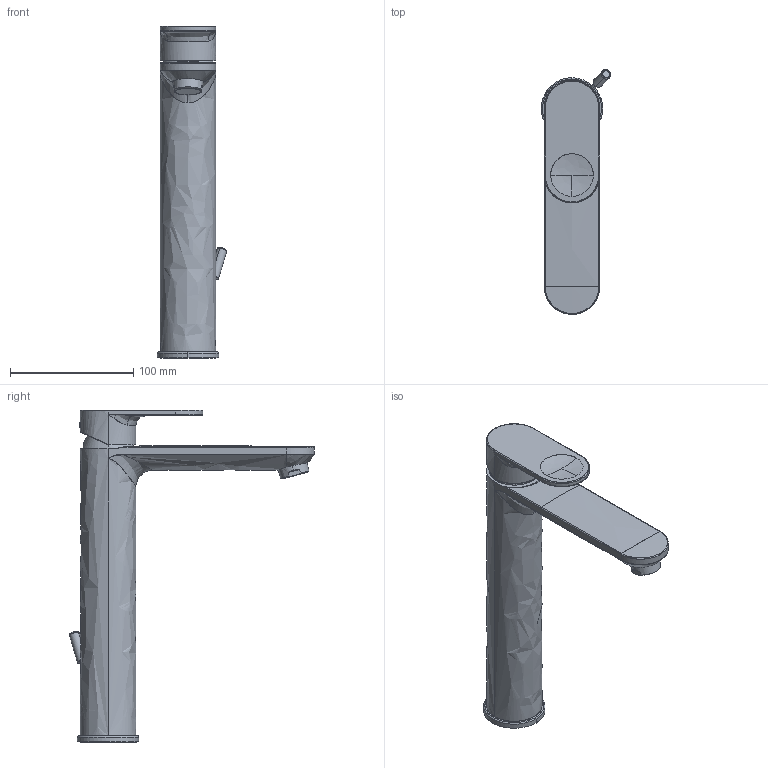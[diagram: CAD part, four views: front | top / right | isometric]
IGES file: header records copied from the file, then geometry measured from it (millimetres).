
Global section: file name: D:\01_Planungsdaten\_news19\Armaturen\B3\B31030001010\3D\B31030001010.igs; native system: Rhinoceros ( Sep 13 2016 ); preprocessor: Trout Lake IGES 012 Sep 13 2016; date: 190225.143631; units: millimetre
Bounding box: 56.31 x 198.83 x 269.45 mm (x, y, z)
Surface area: 69851 mm2 (no closed solid volume)
Topology: 0 solids, 0 shells, 119 faces, 1281 edges, 1278 vertices
Faces by surface type: bspline 119
